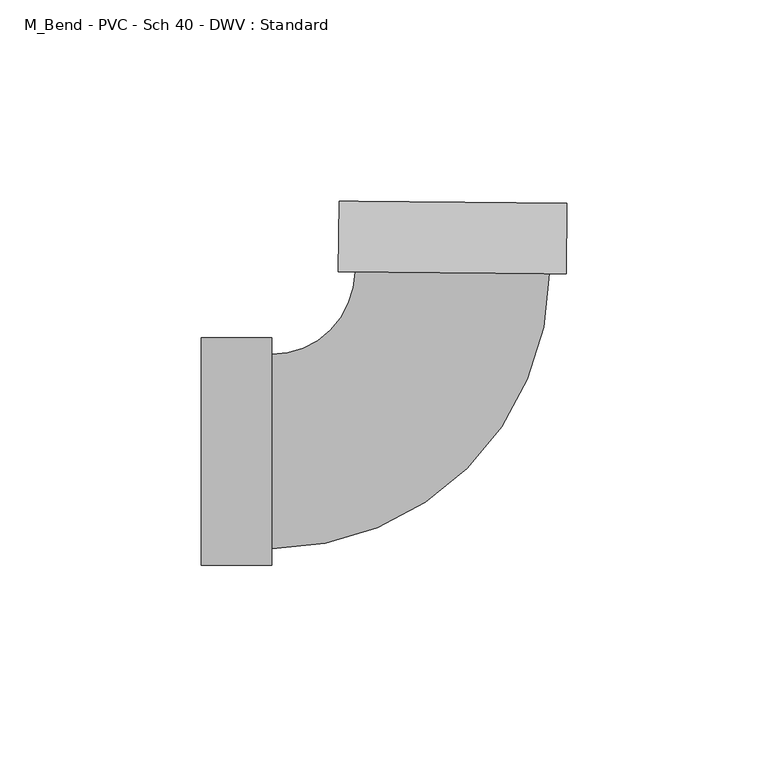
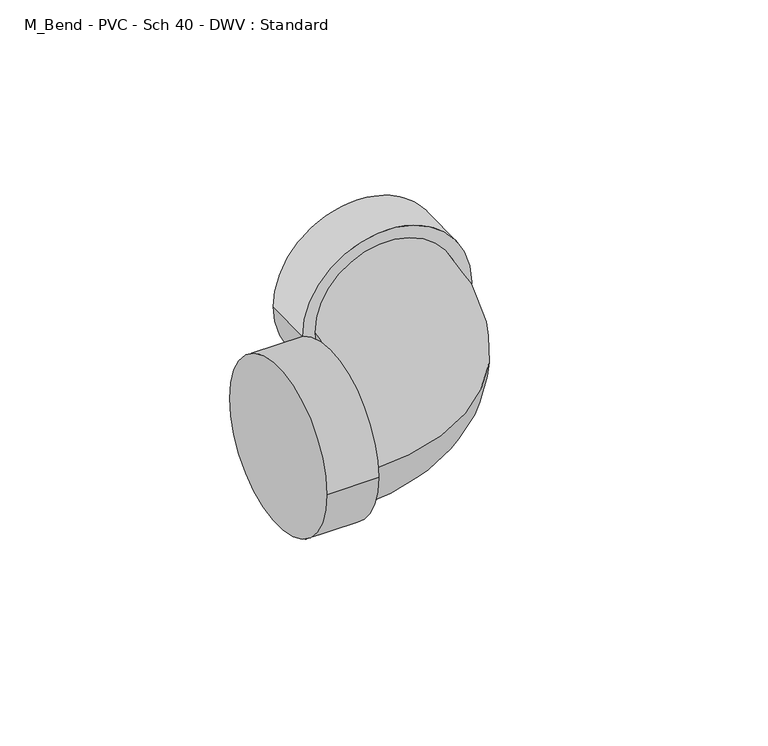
"""IFC4 building model written with IfcOpenShell, lengths in millimetres: pipe fitting geometry, M_Bend - PVC - Sch 40 - DWV : Standard."""

from ifc_helpers import new_model, si_unit, point, frame, origin, place, context, project, spatial, circle_curve, ellipse_curve, trimmed, source, transform, mapped, element, save
from ifc_brep_helpers import plane_surface, cylinder_surface, revolved_surface, advanced_brep


def m_bend_pvc_sch_40_dwv_standard_213ff28c(model_context):
    return source(origin(), model_context, "Body", "AdvancedBrep", [
        advanced_brep(
        [(-61.8998, -28.2829, 0.0), (-61.8998, 28.2829, 0.0), (-44.45, -28.2829, 0.0), (-44.45, 28.2829, 0.0), (-44.45, -24.13, 0.0), (-44.45, 24.13, 0.0), (-23.7041304, 44.6785587, 0.0), (24.5536661, 44.2173821, 0.0), (28.7063764, 44.1776967, 0.0), (-27.8568407, 44.7182441, 0.0), (28.8731282, 61.6266999, 0.0), (-27.690089, 62.1672473, 0.0)],
        [
            (0, 1, circle_curve(frame((-61.8998, 0.0, 0.0), z_axis=(-1.0, 0.0, 0.0), x_axis=(0.0, 1.0, 0.0)), 28.2829)),
            (1, 0, circle_curve(frame((-61.8998, 0.0, 0.0), z_axis=(-1.0, 0.0, 0.0), x_axis=(0.0, 1.0, 0.0)), 28.2829)),
            (2, 3, circle_curve(frame((-44.45, 0.0, 0.0), z_axis=(1.0, 0.0, 0.0), x_axis=(0.0, 1.0, 0.0)), 28.2829)),
            (3, 2, circle_curve(frame((-44.45, 0.0, 0.0), z_axis=(1.0, 0.0, 0.0), x_axis=(0.0, 1.0, 0.0)), 28.2829)),
            (4, 5, circle_curve(frame((-44.45, 0.0, 0.0), z_axis=(-1.0, 0.0, 0.0), x_axis=(0.0, 1.0, 0.0)), 24.13)),
            (5, 4, circle_curve(frame((-44.45, 0.0, 0.0), z_axis=(-1.0, 0.0, 0.0), x_axis=(0.0, 1.0, 0.0)), 24.13)),
            (0, 2),
            (3, 1),
            (6, 5, circle_curve(frame((-44.45, 44.8768169, 0.0), z_axis=(0.0, 0.0, -1.0), x_axis=(0.0, -1.0, 0.0)), 20.7468169)),
            (4, 7, circle_curve(frame((-44.45, 44.8768169, 0.0), z_axis=(0.0, 0.0, 1.0), x_axis=(0.0, -1.0, 0.0)), 69.0068169)),
            (7, 6, circle_curve(frame((0.4247678, 44.4479704, 0.0), z_axis=(-0.009556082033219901, -0.9999543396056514, 0.0), x_axis=(-0.9999543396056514, 0.009556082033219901, 0.0)), 24.13)),
            (6, 7, circle_curve(frame((0.4247678, 44.4479704, 0.0), z_axis=(-0.009556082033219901, -0.9999543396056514, 0.0), x_axis=(-0.9999543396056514, 0.009556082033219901, 0.0)), 24.13)),
            (8, 9, circle_curve(frame((0.4247678, 44.4479704, 0.0), z_axis=(-0.009556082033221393, -0.9999543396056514, 0.0), x_axis=(-0.9999543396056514, 0.009556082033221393, 0.0)), 28.2829)),
            (9, 8, circle_curve(frame((0.4247678, 44.4479704, 0.0), z_axis=(-0.009556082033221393, -0.9999543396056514, 0.0), x_axis=(-0.9999543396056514, 0.009556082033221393, 0.0)), 28.2829)),
            (10, 11, circle_curve(frame((0.5915196, 61.8969736, 0.0), z_axis=(0.009556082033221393, 0.9999543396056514, 0.0), x_axis=(-0.9999543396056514, 0.009556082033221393, 0.0)), 28.2829)),
            (11, 10, circle_curve(frame((0.5915196, 61.8969736, 0.0), z_axis=(0.009556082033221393, 0.9999543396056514, 0.0), x_axis=(-0.9999543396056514, 0.009556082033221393, 0.0)), 28.2829)),
            (8, 10),
            (11, 9),
        ],
        [
            plane_surface(frame((-61.8998, 0.0, 0.0), z_axis=(-1.0, 0.0, 0.0), x_axis=(0.0, 0.0, 1.0))),
            plane_surface(frame((-44.45, 0.0, 0.0), z_axis=(1.0, 0.0, 0.0), x_axis=(0.0, 0.0, 1.0))),
            cylinder_surface(frame((-61.8998, 0.0, 0.0), z_axis=(-1.0, 0.0, 0.0), x_axis=(0.0, 1.0, 0.0)), 28.2829),
            revolved_surface(trimmed(ellipse_curve(frame((-44.45, 0.0, 0.0), z_axis=(-1.0, 0.0, 0.0), x_axis=(0.0, 1.0, 0.0)), 24.13, 24.13), [point((-44.45, -24.13, 0.0))], [point((-44.45, 24.13, 0.0))], True, "CARTESIAN"), (-44.45, 44.8768169, 0.0), (0.0, 0.0, 1.0)),
            revolved_surface(trimmed(ellipse_curve(frame((-44.45, 0.0, 0.0), z_axis=(-1.0, 0.0, 0.0), x_axis=(0.0, 1.0, 0.0)), 24.13, 24.13), [point((-44.45, 24.13, 0.0))], [point((-44.45, -24.13, 0.0))], True, "CARTESIAN"), (-44.45, 44.8768169, 0.0), (0.0, 0.0, 1.0)),
            plane_surface(frame((0.4247678, 44.4479704, 0.0), z_axis=(-0.009556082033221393, -0.9999543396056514, 0.0), x_axis=(0.0, 0.0, 1.0))),
            plane_surface(frame((0.5915196, 61.8969736, 0.0), z_axis=(0.009556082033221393, 0.9999543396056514, 0.0), x_axis=(0.0, 0.0, 1.0))),
            cylinder_surface(frame((0.4247678, 44.4479704, 0.0), z_axis=(-0.009556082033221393, -0.9999543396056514, 0.0), x_axis=(-0.9999543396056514, 0.009556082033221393, 0.0)), 28.2829),
        ],
        [
            (0, [[1, 2]]),
            (1, [[3, 4], [5, 6]]),
            (2, [[-1, 7, -4, 8]]),
            (2, [[-2, -8, -3, -7]]),
            (3, [[9, -5, 10, 11]]),
            (4, [[-9, 12, -10, -6]]),
            (5, [[13, 14], [-11, -12]]),
            (6, [[15, 16]]),
            (7, [[-13, 17, -16, 18]]),
            (7, [[-14, -18, -15, -17]]),
        ],
    ),
    ])


if __name__ == "__main__":
    model = new_model("IFC4")
    model_context = context("Model", 3, world=origin())
    ifc_project = project(units=[si_unit("LENGTHUNIT", "METRE", prefix="MILLI")], contexts=[model_context])
    site = spatial("IfcSite", under=ifc_project)
    building = spatial("IfcBuilding", under=site)
    placement = place(None, origin())
    m_bend_pvc_sch_40_dwv_standard_shape = m_bend_pvc_sch_40_dwv_standard_213ff28c(model_context)
    element("IfcPipeFitting", 1, ObjectType="M_Bend - PVC - Sch 40 - DWV : Standard", at=placement, inside=building, context=model_context, shape_type="MappedRepresentation", body=[
        mapped(m_bend_pvc_sch_40_dwv_standard_shape, transform((0.0, 0.0, 0.0), x_axis=(1.0, 0.0, 0.0), y_axis=(0.0, 1.0, 0.0), z_axis=(0.0, 0.0, 1.0))),
    ])
    save(model, "model.ifc")
